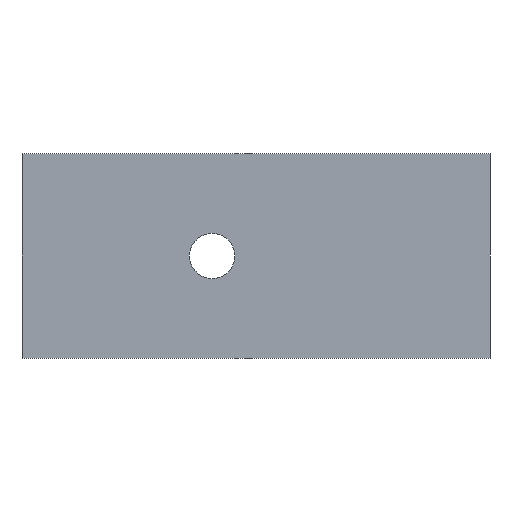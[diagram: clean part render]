
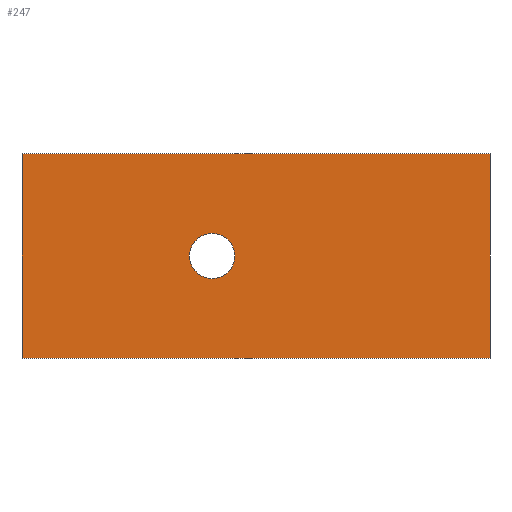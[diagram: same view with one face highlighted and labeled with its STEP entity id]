
A CAD part, front view. The second image highlights one B-rep face of the part: STEP entity #247.
In plain terms, the highlighted planar face has unit normal (0, -1, 0).
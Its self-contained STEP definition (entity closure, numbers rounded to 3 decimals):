
#22 = VERTEX_POINT('',#23);
#23 = CARTESIAN_POINT('',(-3.,0.,1.55));
#32 = CYLINDRICAL_SURFACE('',#33,1.55);
#33 = AXIS2_PLACEMENT_3D('',#34,#35,#36);
#34 = CARTESIAN_POINT('',(-3.,-0.1,0.));
#35 = DIRECTION('',(0.,1.,0.));
#36 = DIRECTION('',(0.,-0.,1.));
#44 = CYLINDRICAL_SURFACE('',#45,1.55);
#45 = AXIS2_PLACEMENT_3D('',#46,#47,#48);
#46 = CARTESIAN_POINT('',(-3.,-0.1,0.));
#47 = DIRECTION('',(0.,1.,0.));
#48 = DIRECTION('',(0.,-0.,1.));
#86 = VERTEX_POINT('',#87);
#87 = CARTESIAN_POINT('',(-3.,0.,-1.55));
#108 = EDGE_CURVE('',#22,#86,#109,.T.);
#109 = SURFACE_CURVE('',#110,(#115,#122),.PCURVE_S1.);
#110 = CIRCLE('',#111,1.55);
#111 = AXIS2_PLACEMENT_3D('',#112,#113,#114);
#112 = CARTESIAN_POINT('',(-3.,0.,0.));
#113 = DIRECTION('',(0.,-1.,0.));
#114 = DIRECTION('',(0.,0.,1.));
#115 = PCURVE('',#32,#116);
#116 = DEFINITIONAL_REPRESENTATION('',(#117),#121);
#117 = LINE('',#118,#119);
#118 = CARTESIAN_POINT('',(6.283,0.1));
#119 = VECTOR('',#120,1.);
#120 = DIRECTION('',(-1.,0.));
#121 = ( GEOMETRIC_REPRESENTATION_CONTEXT(2) 
PARAMETRIC_REPRESENTATION_CONTEXT() REPRESENTATION_CONTEXT('2D SPACE',''
  ) );
#122 = PCURVE('',#123,#128);
#123 = PLANE('',#124);
#124 = AXIS2_PLACEMENT_3D('',#125,#126,#127);
#125 = CARTESIAN_POINT('',(-16.,0.,-7.));
#126 = DIRECTION('',(0.,1.,0.));
#127 = DIRECTION('',(0.,-0.,1.));
#128 = DEFINITIONAL_REPRESENTATION('',(#129),#137);
#129 = ( BOUNDED_CURVE() B_SPLINE_CURVE(2,(#130,#131,#132,#133,#134,#135
,#136),.UNSPECIFIED.,.T.,.F.) B_SPLINE_CURVE_WITH_KNOTS((1,2,2,2,2,1),(
    -2.094,0.,2.094,4.189,6.283,
8.378),.UNSPECIFIED.) CURVE() GEOMETRIC_REPRESENTATION_ITEM() 
RATIONAL_B_SPLINE_CURVE((1.,0.5,1.,0.5,1.,0.5,1.)) REPRESENTATION_ITEM(
  '') );
#130 = CARTESIAN_POINT('',(8.55,13.));
#131 = CARTESIAN_POINT('',(8.55,10.315));
#132 = CARTESIAN_POINT('',(6.225,11.658));
#133 = CARTESIAN_POINT('',(3.9,13.));
#134 = CARTESIAN_POINT('',(6.225,14.342));
#135 = CARTESIAN_POINT('',(8.55,15.685));
#136 = CARTESIAN_POINT('',(8.55,13.));
#137 = ( GEOMETRIC_REPRESENTATION_CONTEXT(2) 
PARAMETRIC_REPRESENTATION_CONTEXT() REPRESENTATION_CONTEXT('2D SPACE',''
  ) );
#165 = EDGE_CURVE('',#86,#22,#166,.T.);
#166 = SURFACE_CURVE('',#167,(#172,#179),.PCURVE_S1.);
#167 = CIRCLE('',#168,1.55);
#168 = AXIS2_PLACEMENT_3D('',#169,#170,#171);
#169 = CARTESIAN_POINT('',(-3.,0.,0.));
#170 = DIRECTION('',(0.,-1.,0.));
#171 = DIRECTION('',(0.,0.,1.));
#172 = PCURVE('',#44,#173);
#173 = DEFINITIONAL_REPRESENTATION('',(#174),#178);
#174 = LINE('',#175,#176);
#175 = CARTESIAN_POINT('',(6.283,0.1));
#176 = VECTOR('',#177,1.);
#177 = DIRECTION('',(-1.,0.));
#178 = ( GEOMETRIC_REPRESENTATION_CONTEXT(2) 
PARAMETRIC_REPRESENTATION_CONTEXT() REPRESENTATION_CONTEXT('2D SPACE',''
  ) );
#179 = PCURVE('',#123,#180);
#180 = DEFINITIONAL_REPRESENTATION('',(#181),#189);
#181 = ( BOUNDED_CURVE() B_SPLINE_CURVE(2,(#182,#183,#184,#185,#186,#187
,#188),.UNSPECIFIED.,.T.,.F.) B_SPLINE_CURVE_WITH_KNOTS((1,2,2,2,2,1),(
    -2.094,0.,2.094,4.189,6.283,
8.378),.UNSPECIFIED.) CURVE() GEOMETRIC_REPRESENTATION_ITEM() 
RATIONAL_B_SPLINE_CURVE((1.,0.5,1.,0.5,1.,0.5,1.)) REPRESENTATION_ITEM(
  '') );
#182 = CARTESIAN_POINT('',(8.55,13.));
#183 = CARTESIAN_POINT('',(8.55,10.315));
#184 = CARTESIAN_POINT('',(6.225,11.658));
#185 = CARTESIAN_POINT('',(3.9,13.));
#186 = CARTESIAN_POINT('',(6.225,14.342));
#187 = CARTESIAN_POINT('',(8.55,15.685));
#188 = CARTESIAN_POINT('',(8.55,13.));
#189 = ( GEOMETRIC_REPRESENTATION_CONTEXT(2) 
PARAMETRIC_REPRESENTATION_CONTEXT() REPRESENTATION_CONTEXT('2D SPACE',''
  ) );
#247 = ADVANCED_FACE('',(#248,#252),#123,.F.);
#248 = FACE_BOUND('',#249,.T.);
#249 = EDGE_LOOP('',(#250,#251));
#250 = ORIENTED_EDGE('',*,*,#108,.F.);
#251 = ORIENTED_EDGE('',*,*,#165,.F.);
#252 = FACE_BOUND('',#253,.T.);
#253 = EDGE_LOOP('',(#254,#284,#312,#340));
#254 = ORIENTED_EDGE('',*,*,#255,.F.);
#255 = EDGE_CURVE('',#256,#258,#260,.T.);
#256 = VERTEX_POINT('',#257);
#257 = CARTESIAN_POINT('',(-16.,0.,7.));
#258 = VERTEX_POINT('',#259);
#259 = CARTESIAN_POINT('',(16.,0.,7.));
#260 = SURFACE_CURVE('',#261,(#265,#272),.PCURVE_S1.);
#261 = LINE('',#262,#263);
#262 = CARTESIAN_POINT('',(-16.,0.,7.));
#263 = VECTOR('',#264,1.);
#264 = DIRECTION('',(1.,0.,-0.));
#265 = PCURVE('',#123,#266);
#266 = DEFINITIONAL_REPRESENTATION('',(#267),#271);
#267 = LINE('',#268,#269);
#268 = CARTESIAN_POINT('',(14.,0.));
#269 = VECTOR('',#270,1.);
#270 = DIRECTION('',(0.,1.));
#271 = ( GEOMETRIC_REPRESENTATION_CONTEXT(2) 
PARAMETRIC_REPRESENTATION_CONTEXT() REPRESENTATION_CONTEXT('2D SPACE',''
  ) );
#272 = PCURVE('',#273,#278);
#273 = PLANE('',#274);
#274 = AXIS2_PLACEMENT_3D('',#275,#276,#277);
#275 = CARTESIAN_POINT('',(-16.,0.,7.));
#276 = DIRECTION('',(0.,0.,1.));
#277 = DIRECTION('',(1.,0.,-0.));
#278 = DEFINITIONAL_REPRESENTATION('',(#279),#283);
#279 = LINE('',#280,#281);
#280 = CARTESIAN_POINT('',(0.,0.));
#281 = VECTOR('',#282,1.);
#282 = DIRECTION('',(1.,0.));
#283 = ( GEOMETRIC_REPRESENTATION_CONTEXT(2) 
PARAMETRIC_REPRESENTATION_CONTEXT() REPRESENTATION_CONTEXT('2D SPACE',''
  ) );
#284 = ORIENTED_EDGE('',*,*,#285,.F.);
#285 = EDGE_CURVE('',#286,#256,#288,.T.);
#286 = VERTEX_POINT('',#287);
#287 = CARTESIAN_POINT('',(-16.,0.,-7.));
#288 = SURFACE_CURVE('',#289,(#293,#300),.PCURVE_S1.);
#289 = LINE('',#290,#291);
#290 = CARTESIAN_POINT('',(-16.,0.,-7.));
#291 = VECTOR('',#292,1.);
#292 = DIRECTION('',(0.,-0.,1.));
#293 = PCURVE('',#123,#294);
#294 = DEFINITIONAL_REPRESENTATION('',(#295),#299);
#295 = LINE('',#296,#297);
#296 = CARTESIAN_POINT('',(0.,0.));
#297 = VECTOR('',#298,1.);
#298 = DIRECTION('',(1.,0.));
#299 = ( GEOMETRIC_REPRESENTATION_CONTEXT(2) 
PARAMETRIC_REPRESENTATION_CONTEXT() REPRESENTATION_CONTEXT('2D SPACE',''
  ) );
#300 = PCURVE('',#301,#306);
#301 = PLANE('',#302);
#302 = AXIS2_PLACEMENT_3D('',#303,#304,#305);
#303 = CARTESIAN_POINT('',(-16.,0.,-7.));
#304 = DIRECTION('',(1.,0.,-0.));
#305 = DIRECTION('',(-0.,0.,-1.));
#306 = DEFINITIONAL_REPRESENTATION('',(#307),#311);
#307 = LINE('',#308,#309);
#308 = CARTESIAN_POINT('',(0.,0.));
#309 = VECTOR('',#310,1.);
#310 = DIRECTION('',(-1.,0.));
#311 = ( GEOMETRIC_REPRESENTATION_CONTEXT(2) 
PARAMETRIC_REPRESENTATION_CONTEXT() REPRESENTATION_CONTEXT('2D SPACE',''
  ) );
#312 = ORIENTED_EDGE('',*,*,#313,.F.);
#313 = EDGE_CURVE('',#314,#286,#316,.T.);
#314 = VERTEX_POINT('',#315);
#315 = CARTESIAN_POINT('',(16.,0.,-7.));
#316 = SURFACE_CURVE('',#317,(#321,#328),.PCURVE_S1.);
#317 = LINE('',#318,#319);
#318 = CARTESIAN_POINT('',(-16.,0.,-7.));
#319 = VECTOR('',#320,1.);
#320 = DIRECTION('',(-1.,-0.,0.));
#321 = PCURVE('',#123,#322);
#322 = DEFINITIONAL_REPRESENTATION('',(#323),#327);
#323 = LINE('',#324,#325);
#324 = CARTESIAN_POINT('',(0.,0.));
#325 = VECTOR('',#326,1.);
#326 = DIRECTION('',(0.,-1.));
#327 = ( GEOMETRIC_REPRESENTATION_CONTEXT(2) 
PARAMETRIC_REPRESENTATION_CONTEXT() REPRESENTATION_CONTEXT('2D SPACE',''
  ) );
#328 = PCURVE('',#329,#334);
#329 = PLANE('',#330);
#330 = AXIS2_PLACEMENT_3D('',#331,#332,#333);
#331 = CARTESIAN_POINT('',(-16.,0.,-7.));
#332 = DIRECTION('',(0.,0.,1.));
#333 = DIRECTION('',(1.,0.,-0.));
#334 = DEFINITIONAL_REPRESENTATION('',(#335),#339);
#335 = LINE('',#336,#337);
#336 = CARTESIAN_POINT('',(0.,0.));
#337 = VECTOR('',#338,1.);
#338 = DIRECTION('',(-1.,0.));
#339 = ( GEOMETRIC_REPRESENTATION_CONTEXT(2) 
PARAMETRIC_REPRESENTATION_CONTEXT() REPRESENTATION_CONTEXT('2D SPACE',''
  ) );
#340 = ORIENTED_EDGE('',*,*,#341,.F.);
#341 = EDGE_CURVE('',#258,#314,#342,.T.);
#342 = SURFACE_CURVE('',#343,(#347,#354),.PCURVE_S1.);
#343 = LINE('',#344,#345);
#344 = CARTESIAN_POINT('',(16.,0.,-7.));
#345 = VECTOR('',#346,1.);
#346 = DIRECTION('',(-0.,0.,-1.));
#347 = PCURVE('',#123,#348);
#348 = DEFINITIONAL_REPRESENTATION('',(#349),#353);
#349 = LINE('',#350,#351);
#350 = CARTESIAN_POINT('',(0.,32.));
#351 = VECTOR('',#352,1.);
#352 = DIRECTION('',(-1.,0.));
#353 = ( GEOMETRIC_REPRESENTATION_CONTEXT(2) 
PARAMETRIC_REPRESENTATION_CONTEXT() REPRESENTATION_CONTEXT('2D SPACE',''
  ) );
#354 = PCURVE('',#355,#360);
#355 = PLANE('',#356);
#356 = AXIS2_PLACEMENT_3D('',#357,#358,#359);
#357 = CARTESIAN_POINT('',(16.,0.,-7.));
#358 = DIRECTION('',(1.,0.,-0.));
#359 = DIRECTION('',(-0.,0.,-1.));
#360 = DEFINITIONAL_REPRESENTATION('',(#361),#365);
#361 = LINE('',#362,#363);
#362 = CARTESIAN_POINT('',(0.,0.));
#363 = VECTOR('',#364,1.);
#364 = DIRECTION('',(1.,0.));
#365 = ( GEOMETRIC_REPRESENTATION_CONTEXT(2) 
PARAMETRIC_REPRESENTATION_CONTEXT() REPRESENTATION_CONTEXT('2D SPACE',''
  ) );
